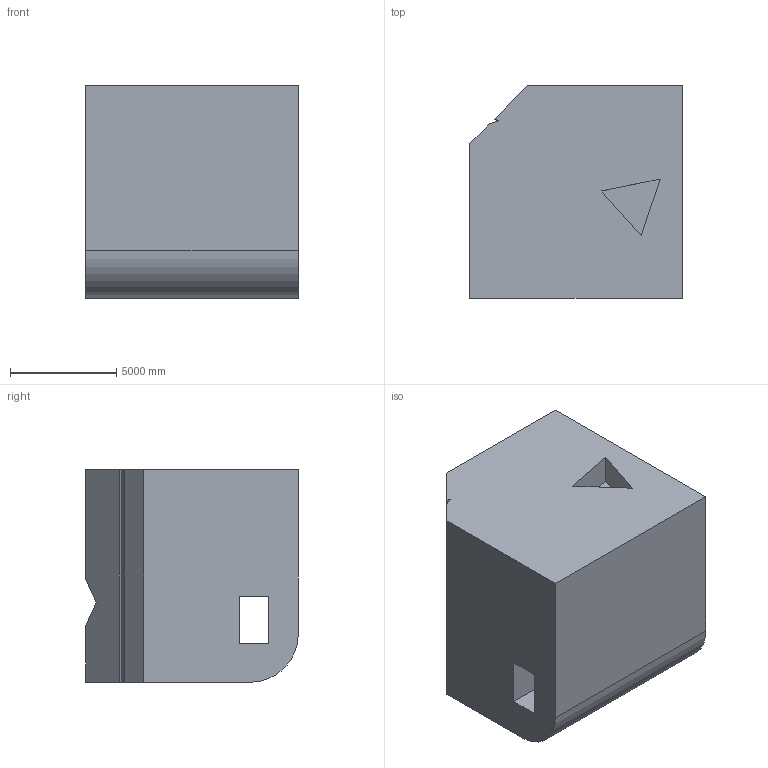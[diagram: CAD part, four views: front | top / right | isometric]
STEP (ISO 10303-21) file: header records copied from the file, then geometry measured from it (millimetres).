
FILE_DESCRIPTION (( 'STEP AP203' ), '1' );
FILE_NAME ('1606.STEP', '2022-08-18T16:06:55', ( 'user' ), ( '' ), 'SwSTEP 2.0', 'SolidWorks 2021', '' );
FILE_SCHEMA (( 'CONFIG_CONTROL_DESIGN' ));
Length unit declared in the file: centimetre
Products named in the file (1): 1606
Bounding box: 10000 x 10000 x 10000 mm (x, y, z)
Volume: 893695004430.3 mm3; surface area: 646748959.6 mm2
Topology: 1 solids, 1 shells, 25 faces, 66 edges, 44 vertices
Faces by surface type: plane 24, cylinder 1
Entity records: 843 total; most frequent: CARTESIAN_POINT 136, ORIENTED_EDGE 132, DIRECTION 120, EDGE_CURVE 66, LINE 64, VECTOR 64, VERTEX_POINT 44, EDGE_LOOP 28
